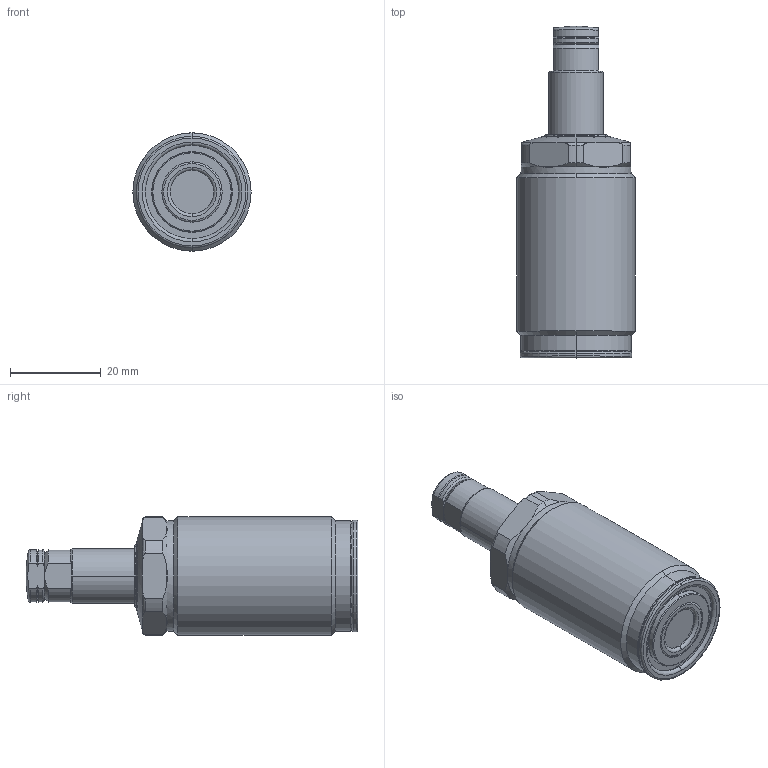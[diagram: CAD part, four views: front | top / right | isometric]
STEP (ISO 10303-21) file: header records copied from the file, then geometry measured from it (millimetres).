
FILE_DESCRIPTION(/* description */ (''),/* implementation_level */ '2;1');
FILE_NAME(/* name */ 'GSS00-Q.stp',/* time_stamp */ '2025-01-10T09:26:41+08:00',/* author */ (''),/* organization */ (''),/* preprocessor_version */ 'ST-DEVELOPER v16.7',/* originating_system */ 'SIEMENS PLM Software NX 12.0',/* authorisation */ '');
FILE_SCHEMA (('AUTOMOTIVE_DESIGN { 1 0 10303 214 3 1 1 1 }'));
Length unit declared in the file: millimetre
Products named in the file (6): GSS00-Q-003; GSS00-Q-06; GSS00-Q-04; GSS00-Q-02; GSS00-Q-01; GSS00-Q_stp
Assembly tree (5 placements, depth 2):
  GSS00-Q_stp
    GSS00-Q-01
    GSS00-Q-02
    GSS00-Q-04
    GSS00-Q-06
    GSS00-Q-003
Bounding box: 26 x 73 x 26 mm (x, y, z)
Volume: 25941.8 mm3; surface area: 7640.1 mm2
Topology: 5 solids, 5 shells, 166 faces, 372 edges, 224 vertices
Faces by surface type: cylinder 48, torus 47, plane 35, cone 34, sphere 2
Full cylindrical faces by diameter (mm): 24.2 x1, 26 x1
Entity records: 5142 total; most frequent: CARTESIAN_POINT 1204, DIRECTION 886, ORIENTED_EDGE 746, AXIS2_PLACEMENT_3D 395, EDGE_CURVE 373, VERTEX_POINT 227, CIRCLE 217, EDGE_LOOP 182
